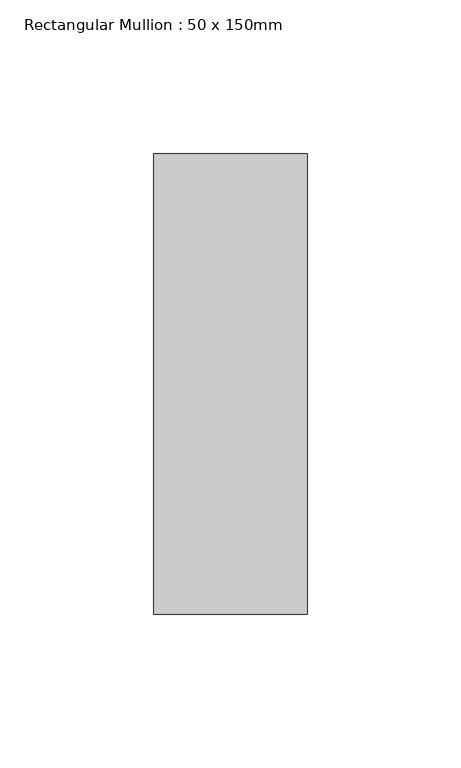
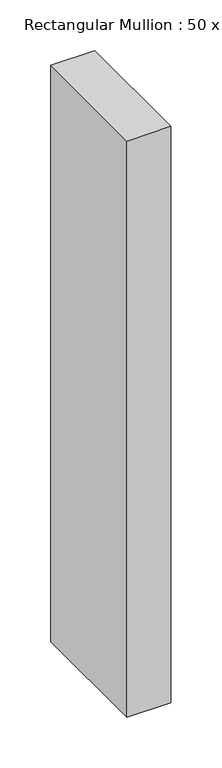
"""IFC4 building model written with IfcOpenShell, lengths in millimetres: member geometry, Rectangular Mullion : 50 x 150mm."""

from ifc_helpers import new_model, si_unit, frame, origin, place, context, project, spatial, polyline, outline, extrude, source, transform, mapped, element, save


def rectangular_mullion_50_x_150mm_eed8749f(model_context):
    return source(origin(), model_context, "Body", "SweptSolid", [
        extrude(outline(polyline([(25.0, 75.0), (25.0, -75.0), (-25.0, -75.0), (-25.0, 75.0), (25.0, 75.0)])), frame((0.0, 0.0, -692.5961894), z_axis=(0.0, 0.0, 1.0), x_axis=(1.0, 0.0, 0.0)), (0.0, 0.0, 1.0), 692.5961894),
    ])


if __name__ == "__main__":
    model = new_model("IFC4")
    model_context = context("Model", 3, world=origin())
    ifc_project = project(units=[si_unit("LENGTHUNIT", "METRE", prefix="MILLI")], contexts=[model_context])
    site = spatial("IfcSite", under=ifc_project)
    building = spatial("IfcBuilding", under=site)
    placement = place(None, origin())
    rectangular_mullion_50_x_150mm_shape = rectangular_mullion_50_x_150mm_eed8749f(model_context)
    element("IfcMember", 1, ObjectType="Rectangular Mullion : 50 x 150mm", at=placement, inside=building, context=model_context, shape_type="MappedRepresentation", body=[
        mapped(rectangular_mullion_50_x_150mm_shape, transform((0.0, 0.0, 0.0), x_axis=(1.0, 0.0, 0.0), y_axis=(0.0, 1.0, 0.0), z_axis=(0.0, 0.0, 1.0))),
    ])
    save(model, "model.ifc")
